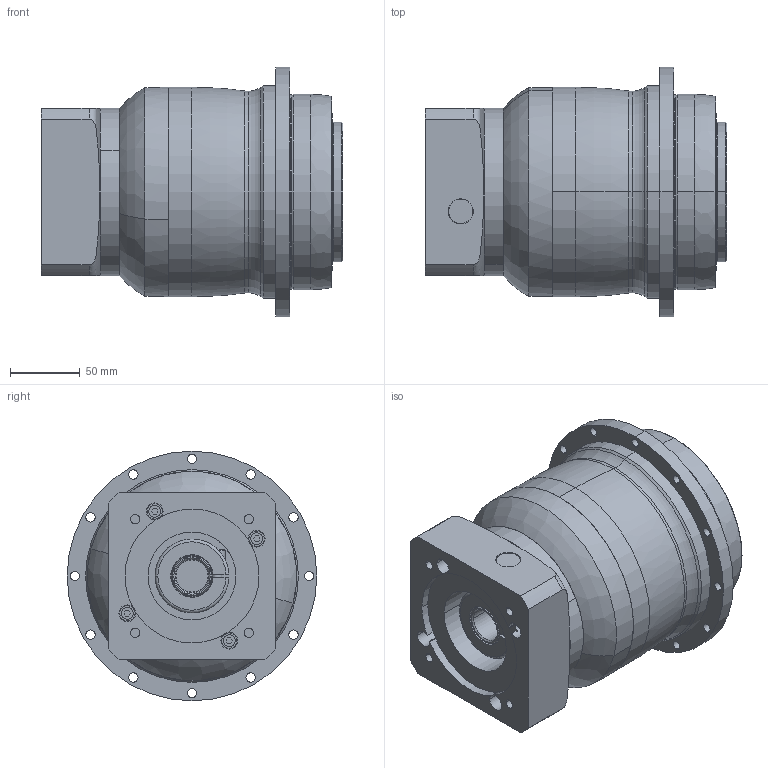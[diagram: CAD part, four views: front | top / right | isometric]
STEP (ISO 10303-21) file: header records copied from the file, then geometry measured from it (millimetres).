
FILE_DESCRIPTION(('STEP AP214'),'1');
FILE_NAME('20180724_112351687.stp','2018-07-24T09:23:52',(''),(''),'XStep 1.0','it-motive AG (itm_Acis_A0018_00R.dll)',' ');
FILE_SCHEMA(('AUTOMOTIVE_DESIGN { 1 0 10303 214 1 1 1 1 }'));
Length unit declared in the file: millimetre
Products named in the file (1): Abtrieb_NPT_m100
Bounding box: 216.2 x 179 x 179 mm (x, y, z)
Volume: 3261922.1 mm3; surface area: 293411.8 mm2
Topology: 7 solids, 7 shells, 337 faces, 796 edges, 489 vertices
Faces by surface type: cylinder 154, plane 95, cone 48, torus 40
Entity records: 13452 total; most frequent: CARTESIAN_POINT 2655, DIRECTION 1828, ORIENTED_EDGE 1540, EDGE_CURVE 770, AXIS2_PLACEMENT_3D 754, VERTEX_POINT 489, EDGE_LOOP 413, CIRCLE 410
